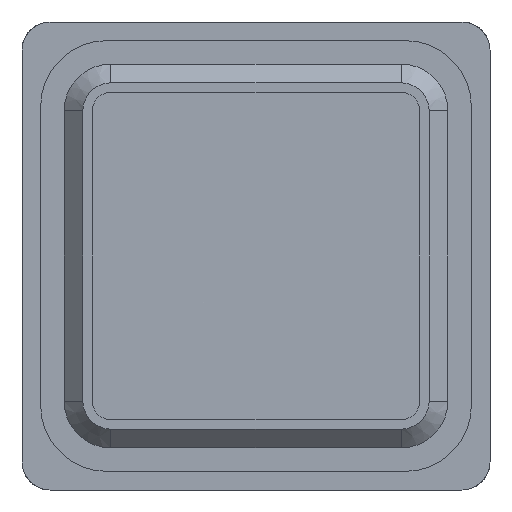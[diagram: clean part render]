
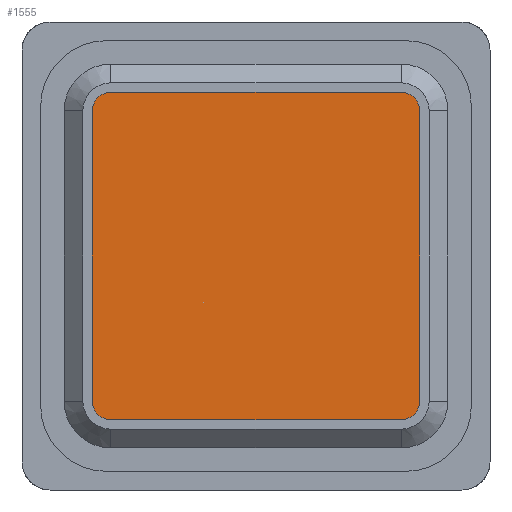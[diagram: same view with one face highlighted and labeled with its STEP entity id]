
A CAD part, front view. The second image highlights one B-rep face of the part: STEP entity #1555.
In plain terms, the highlighted planar face has unit normal (0, -1, 0).
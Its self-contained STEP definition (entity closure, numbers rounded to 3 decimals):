
#79=PLANE('',#1697);
#151=FACE_OUTER_BOUND('',#247,.T.);
#247=EDGE_LOOP('',(#1262,#1263,#1264,#1265,#1266,#1267,#1268,#1269));
#375=LINE('',#2444,#519);
#379=LINE('',#2456,#523);
#383=LINE('',#2468,#527);
#387=LINE('',#2479,#531);
#519=VECTOR('',#2004,31.);
#523=VECTOR('',#2016,31.);
#527=VECTOR('',#2028,31.);
#531=VECTOR('',#2040,31.);
#621=CIRCLE('',#1683,2.);
#623=CIRCLE('',#1687,2.);
#625=CIRCLE('',#1691,2.);
#627=CIRCLE('',#1695,2.);
#725=VERTEX_POINT('',#2434);
#726=VERTEX_POINT('',#2435);
#729=VERTEX_POINT('',#2443);
#731=VERTEX_POINT('',#2449);
#733=VERTEX_POINT('',#2455);
#735=VERTEX_POINT('',#2461);
#737=VERTEX_POINT('',#2467);
#739=VERTEX_POINT('',#2473);
#910=EDGE_CURVE('',#725,#726,#621,.T.);
#914=EDGE_CURVE('',#725,#729,#375,.T.);
#917=EDGE_CURVE('',#731,#729,#623,.T.);
#920=EDGE_CURVE('',#731,#733,#379,.T.);
#923=EDGE_CURVE('',#735,#733,#625,.T.);
#926=EDGE_CURVE('',#735,#737,#383,.T.);
#929=EDGE_CURVE('',#739,#737,#627,.T.);
#932=EDGE_CURVE('',#739,#726,#387,.T.);
#1262=ORIENTED_EDGE('',*,*,#910,.T.);
#1263=ORIENTED_EDGE('',*,*,#932,.F.);
#1264=ORIENTED_EDGE('',*,*,#929,.T.);
#1265=ORIENTED_EDGE('',*,*,#926,.F.);
#1266=ORIENTED_EDGE('',*,*,#923,.T.);
#1267=ORIENTED_EDGE('',*,*,#920,.F.);
#1268=ORIENTED_EDGE('',*,*,#917,.T.);
#1269=ORIENTED_EDGE('',*,*,#914,.F.);
#1555=ADVANCED_FACE('',(#151),#79,.F.);
#1683=AXIS2_PLACEMENT_3D('',#2436,#1996,#1997);
#1687=AXIS2_PLACEMENT_3D('',#2450,#2009,#2010);
#1691=AXIS2_PLACEMENT_3D('',#2462,#2021,#2022);
#1695=AXIS2_PLACEMENT_3D('',#2474,#2033,#2034);
#1697=AXIS2_PLACEMENT_3D('',#2478,#2038,#2039);
#1996=DIRECTION('center_axis',(0.,-1.,0.));
#1997=DIRECTION('ref_axis',(0.707,0.,0.707));
#2004=DIRECTION('',(0.,0.,-1.));
#2009=DIRECTION('center_axis',(0.,-1.,0.));
#2010=DIRECTION('ref_axis',(0.707,0.,-0.707));
#2016=DIRECTION('',(-1.,0.,0.));
#2021=DIRECTION('center_axis',(0.,-1.,0.));
#2022=DIRECTION('ref_axis',(-0.707,0.,-0.707));
#2028=DIRECTION('',(0.,0.,1.));
#2033=DIRECTION('center_axis',(0.,-1.,0.));
#2034=DIRECTION('ref_axis',(-0.707,0.,0.707));
#2038=DIRECTION('center_axis',(0.,1.,0.));
#2039=DIRECTION('ref_axis',(0.,0.,1.));
#2040=DIRECTION('',(1.,0.,0.));
#2434=CARTESIAN_POINT('',(17.5,18.,15.5));
#2435=CARTESIAN_POINT('',(15.5,18.,17.5));
#2436=CARTESIAN_POINT('Origin',(15.5,18.,15.5));
#2443=CARTESIAN_POINT('',(17.5,18.,-15.5));
#2444=CARTESIAN_POINT('',(17.5,18.,17.5));
#2449=CARTESIAN_POINT('',(15.5,18.,-17.5));
#2450=CARTESIAN_POINT('Origin',(15.5,18.,-15.5));
#2455=CARTESIAN_POINT('',(-15.5,18.,-17.5));
#2456=CARTESIAN_POINT('',(17.5,18.,-17.5));
#2461=CARTESIAN_POINT('',(-17.5,18.,-15.5));
#2462=CARTESIAN_POINT('Origin',(-15.5,18.,-15.5));
#2467=CARTESIAN_POINT('',(-17.5,18.,15.5));
#2468=CARTESIAN_POINT('',(-17.5,18.,-17.5));
#2473=CARTESIAN_POINT('',(-15.5,18.,17.5));
#2474=CARTESIAN_POINT('Origin',(-15.5,18.,15.5));
#2478=CARTESIAN_POINT('Origin',(0.,18.,0.));
#2479=CARTESIAN_POINT('',(-17.5,18.,17.5));
